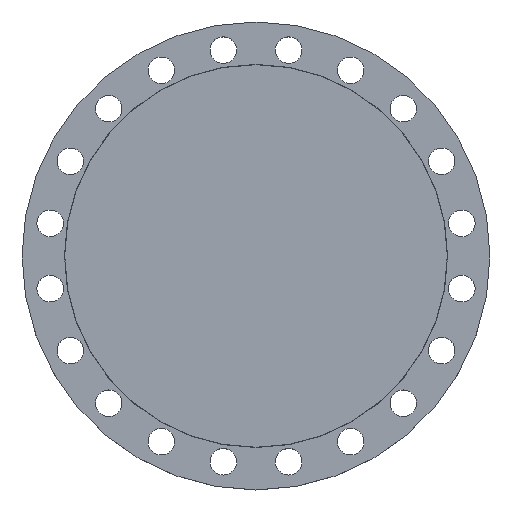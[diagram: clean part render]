
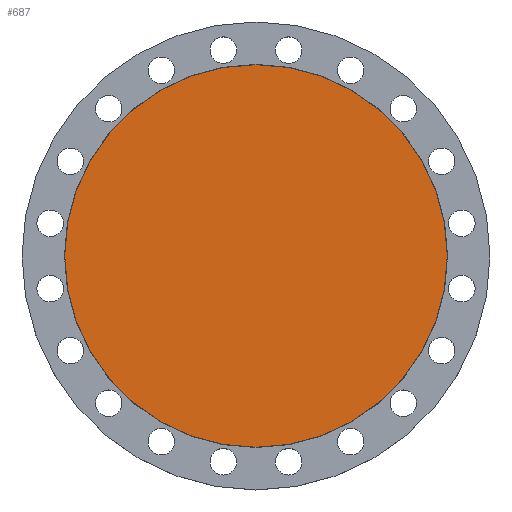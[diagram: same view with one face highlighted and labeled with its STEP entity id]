
A CAD part, top view. The second image highlights one B-rep face of the part: STEP entity #687.
In plain terms, the highlighted planar face has unit normal (0, 0, 1).
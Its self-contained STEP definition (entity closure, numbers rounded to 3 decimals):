
#90 = CARTESIAN_POINT ( 'NONE',  ( 0., 0., 0. ) ) ;
#144 = CIRCLE ( 'NONE', #145, 280. ) ;
#145 = AXIS2_PLACEMENT_3D ( 'NONE', #304, #890, #1402 ) ;
#160 = EDGE_LOOP ( 'NONE', ( #1202, #1675 ) ) ;
#234 = DIRECTION ( 'NONE',  ( 1., 0., 0. ) ) ;
#304 = CARTESIAN_POINT ( 'NONE',  ( 0., 0., 0. ) ) ;
#364 = PLANE ( 'NONE',  #377 ) ;
#367 = EDGE_CURVE ( 'NONE', #892, #700, #653, .T. ) ;
#377 = AXIS2_PLACEMENT_3D ( 'NONE', #944, #1463, #234 ) ;
#653 = CIRCLE ( 'NONE', #654, 280. ) ;
#654 = AXIS2_PLACEMENT_3D ( 'NONE', #90, #658, #1197 ) ;
#658 = DIRECTION ( 'NONE',  ( 0., 0., -1. ) ) ;
#687 = ADVANCED_FACE ( 'NONE', ( #1570 ), #364, .T. ) ;
#700 = VERTEX_POINT ( 'NONE', #953 ) ;
#890 = DIRECTION ( 'NONE',  ( 0., 0., -1. ) ) ;
#892 = VERTEX_POINT ( 'NONE', #1523 ) ;
#895 = EDGE_CURVE ( 'NONE', #700, #892, #144, .T. ) ;
#944 = CARTESIAN_POINT ( 'NONE',  ( 0., 0., 0. ) ) ;
#953 = CARTESIAN_POINT ( 'NONE',  ( -280., 0., 0. ) ) ;
#1197 = DIRECTION ( 'NONE',  ( -1., 0., 0. ) ) ;
#1202 = ORIENTED_EDGE ( 'NONE', *, *, #895, .F. ) ;
#1402 = DIRECTION ( 'NONE',  ( -1., 0., 0. ) ) ;
#1463 = DIRECTION ( 'NONE',  ( 0., 0., 1. ) ) ;
#1523 = CARTESIAN_POINT ( 'NONE',  ( 280., 0., 0. ) ) ;
#1570 = FACE_OUTER_BOUND ( 'NONE', #160, .T. ) ;
#1675 = ORIENTED_EDGE ( 'NONE', *, *, #367, .F. ) ;
